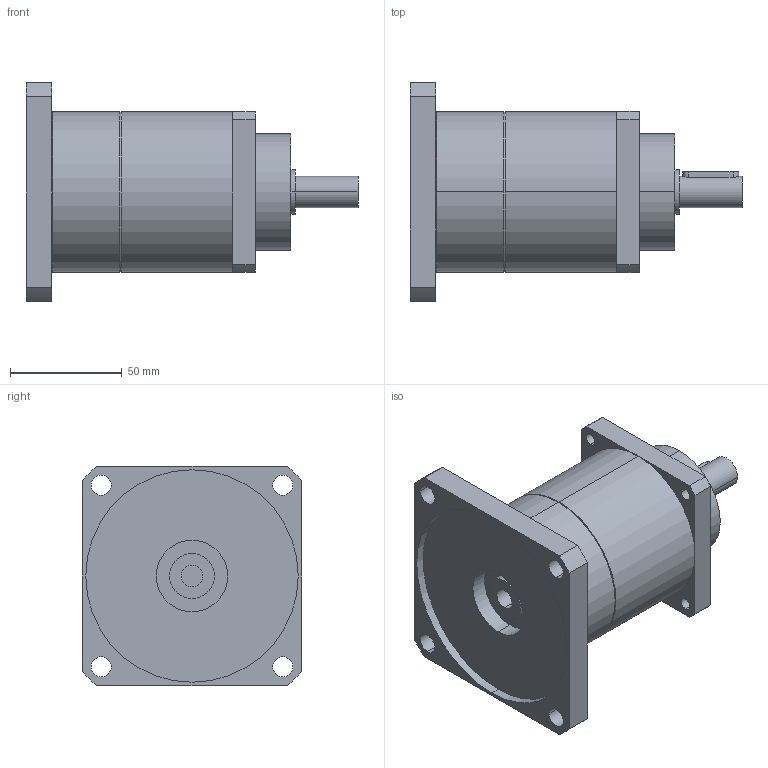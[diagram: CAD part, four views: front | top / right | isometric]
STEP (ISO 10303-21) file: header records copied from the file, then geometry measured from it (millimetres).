
FILE_DESCRIPTION(('CoCreate Modeling STEP Export'),'2;1');
FILE_NAME('GPT75_ig-9-12-16-20-25-28-35-40-50-70-100_14_B5T_9.52_P08.stp','2014-08-27T13:42:18',(''),(''),'CoCreate Modeling STEP processor for AP214 (Solid Model)','CoCreate Modeling 16.00C 25-Feb-2009 (C) Parametric Technology GmbH','');
FILE_SCHEMA(('AUTOMOTIVE_DESIGN { 1 0 10303 214 1 1 1 1 }'));
Length unit declared in the file: millimetre
Products named in the file (2): GPT75_ig-9-12-16-20-25-28-35-40-50-70-100_14_B5T_9.52_P08
Assembly tree (1 placements, depth 2):
  GPT75_ig-9-12-16-20-25-28-35-40-50-70-100_14_B5T_9.52_P08
    GPT75_ig-9-12-16-20-25-28-35-40-50-70-100_14_B5T_9.52_P08
Bounding box: 148.5 x 98 x 98 mm (x, y, z)
Volume: 490415.4 mm3; surface area: 55717.2 mm2
Topology: 1 solids, 1 shells, 77 faces, 189 edges, 124 vertices
Faces by surface type: cylinder 46, plane 27, cone 4
Entity records: 2459 total; most frequent: CARTESIAN_POINT 714, ORIENTED_EDGE 378, DIRECTION 320, EDGE_CURVE 189, VERTEX_POINT 124, AXIS2_PLACEMENT_3D 118, EDGE_LOOP 103, VECTOR 84
